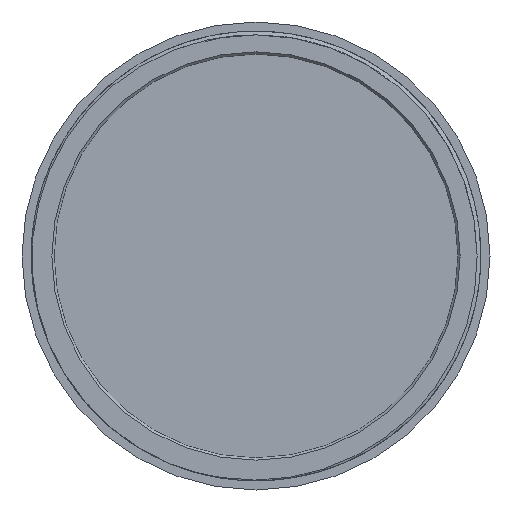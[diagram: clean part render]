
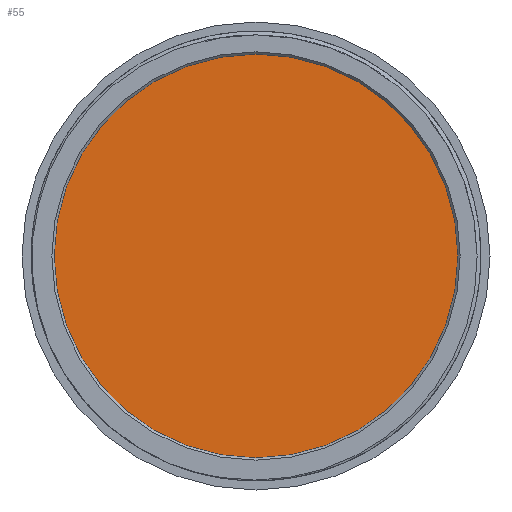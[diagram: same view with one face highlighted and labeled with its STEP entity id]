
A CAD part, front view. The second image highlights one B-rep face of the part: STEP entity #55.
In plain terms, the highlighted planar face has unit normal (0, -1, 0).
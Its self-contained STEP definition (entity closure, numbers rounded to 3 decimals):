
#55 = ADVANCED_FACE ( 'NONE', ( #579 ), #2610, .F. ) ;
#220 = CARTESIAN_POINT ( 'NONE',  ( 0., 2.3, 0. ) ) ;
#331 = CARTESIAN_POINT ( 'NONE',  ( 0., 2.3, 0. ) ) ;
#346 = EDGE_LOOP ( 'NONE', ( #1524, #2093 ) ) ;
#579 = FACE_OUTER_BOUND ( 'NONE', #346, .T. ) ;
#680 = CARTESIAN_POINT ( 'NONE',  ( 0., 2.3, -22.75 ) ) ;
#978 = VERTEX_POINT ( 'NONE', #2413 ) ;
#1030 = AXIS2_PLACEMENT_3D ( 'NONE', #1415, #2957, #1227 ) ;
#1098 = DIRECTION ( 'NONE',  ( 0., 1., 0. ) ) ;
#1227 = DIRECTION ( 'NONE',  ( 0., 0., 1. ) ) ;
#1415 = CARTESIAN_POINT ( 'NONE',  ( 0., 2.3, 0. ) ) ;
#1524 = ORIENTED_EDGE ( 'NONE', *, *, #2646, .F. ) ;
#1827 = CIRCLE ( 'NONE', #2193, 22.75 ) ;
#1980 = DIRECTION ( 'NONE',  ( 0., 0., 1. ) ) ;
#2093 = ORIENTED_EDGE ( 'NONE', *, *, #2662, .F. ) ;
#2193 = AXIS2_PLACEMENT_3D ( 'NONE', #220, #2969, #1980 ) ;
#2258 = AXIS2_PLACEMENT_3D ( 'NONE', #331, #1098, #3179 ) ;
#2334 = VERTEX_POINT ( 'NONE', #680 ) ;
#2355 = CIRCLE ( 'NONE', #1030, 22.75 ) ;
#2413 = CARTESIAN_POINT ( 'NONE',  ( 0., 2.3, 22.75 ) ) ;
#2610 = PLANE ( 'NONE',  #2258 ) ;
#2646 = EDGE_CURVE ( 'NONE', #2334, #978, #2355, .T. ) ;
#2662 = EDGE_CURVE ( 'NONE', #978, #2334, #1827, .T. ) ;
#2957 = DIRECTION ( 'NONE',  ( 0., 1., 0. ) ) ;
#2969 = DIRECTION ( 'NONE',  ( 0., 1., 0. ) ) ;
#3179 = DIRECTION ( 'NONE',  ( 0., 0., 1. ) ) ;
